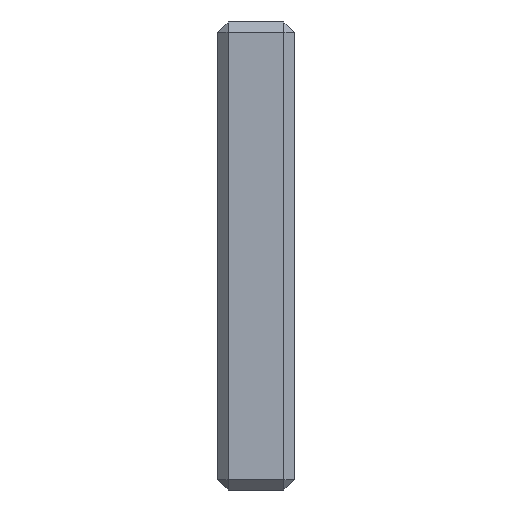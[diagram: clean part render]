
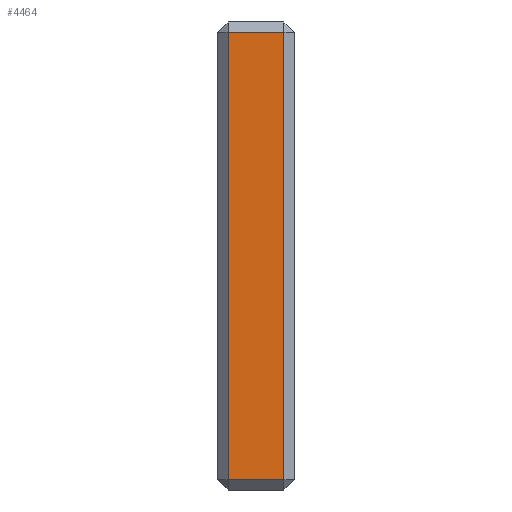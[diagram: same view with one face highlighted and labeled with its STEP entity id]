
A CAD part, left-side view. The second image highlights one B-rep face of the part: STEP entity #4464.
In plain terms, the highlighted planar face has unit normal (-1, 0, 0).
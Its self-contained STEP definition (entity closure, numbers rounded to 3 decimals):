
#672=FACE_OUTER_BOUND('',#1003,.T.);
#1003=EDGE_LOOP('',(#3488,#3489,#3490,#3491));
#1374=LINE('',#7098,#1767);
#1379=LINE('',#7107,#1772);
#1380=LINE('',#7109,#1773);
#1382=LINE('',#7112,#1775);
#1767=VECTOR('',#5704,10.);
#1772=VECTOR('',#5713,10.);
#1773=VECTOR('',#5716,10.);
#1775=VECTOR('',#5720,10.);
#2203=VERTEX_POINT('',#7081);
#2204=VERTEX_POINT('',#7086);
#2206=VERTEX_POINT('',#7092);
#2209=VERTEX_POINT('',#7102);
#2665=EDGE_CURVE('',#2203,#2206,#1374,.T.);
#2670=EDGE_CURVE('',#2206,#2209,#1379,.T.);
#2671=EDGE_CURVE('',#2209,#2204,#1380,.T.);
#2673=EDGE_CURVE('',#2204,#2203,#1382,.T.);
#3488=ORIENTED_EDGE('',*,*,#2665,.F.);
#3489=ORIENTED_EDGE('',*,*,#2673,.F.);
#3490=ORIENTED_EDGE('',*,*,#2671,.F.);
#3491=ORIENTED_EDGE('',*,*,#2670,.F.);
#4310=PLANE('',#4862);
#4464=ADVANCED_FACE('',(#672),#4310,.T.);
#4862=AXIS2_PLACEMENT_3D('',#7131,#5734,#5735);
#5704=DIRECTION('',(0.,1.,0.));
#5713=DIRECTION('',(0.,0.,1.));
#5716=DIRECTION('',(0.,-1.,0.));
#5720=DIRECTION('',(0.,0.,-1.));
#5734=DIRECTION('center_axis',(-1.,0.,0.));
#5735=DIRECTION('ref_axis',(0.,0.,1.));
#7081=CARTESIAN_POINT('',(-100.,-13.,-42.));
#7086=CARTESIAN_POINT('',(-100.,-13.,46.));
#7092=CARTESIAN_POINT('',(-100.,-2.,-42.));
#7098=CARTESIAN_POINT('',(-100.,-7.5,-42.));
#7102=CARTESIAN_POINT('',(-100.,-2.,46.));
#7107=CARTESIAN_POINT('',(-100.,-2.,1.));
#7109=CARTESIAN_POINT('',(-100.,-7.5,46.));
#7112=CARTESIAN_POINT('',(-100.,-13.,1.));
#7131=CARTESIAN_POINT('Origin',(-100.,-7.5,2.));
